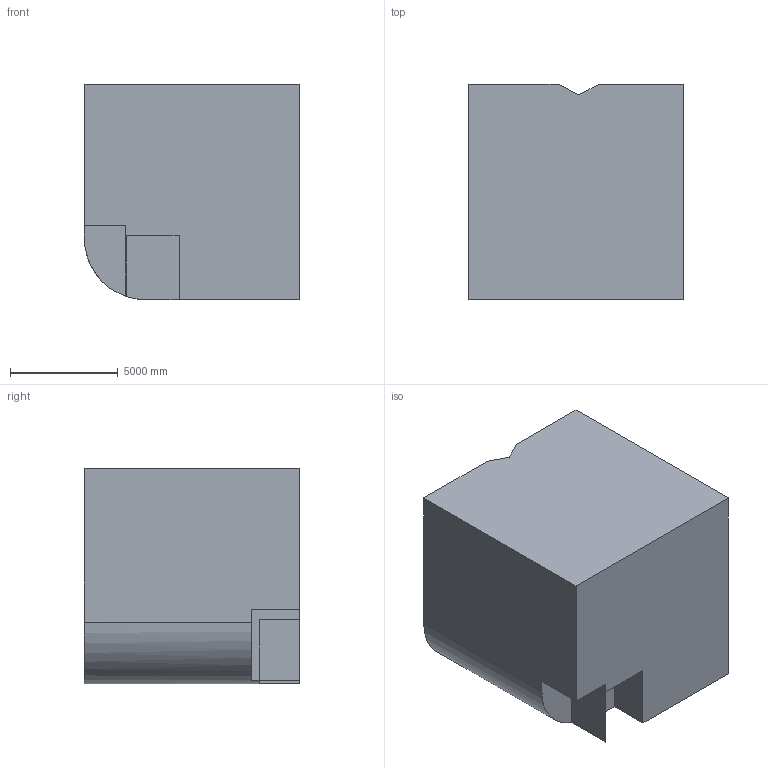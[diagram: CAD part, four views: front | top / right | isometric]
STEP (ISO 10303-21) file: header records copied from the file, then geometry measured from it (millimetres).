
FILE_DESCRIPTION (( 'STEP AP203' ), '1' );
FILE_NAME ('1454.STEP', '2022-08-18T14:34:22', ( 'user' ), ( '' ), 'SwSTEP 2.0', 'SolidWorks 2021', '' );
FILE_SCHEMA (( 'CONFIG_CONTROL_DESIGN' ));
Length unit declared in the file: centimetre
Products named in the file (1): 1454
Bounding box: 10000 x 10000 x 10000 mm (x, y, z)
Volume: 935017226299.3 mm3; surface area: 629747907.2 mm2
Topology: 1 solids, 1 shells, 20 faces, 51 edges, 34 vertices
Faces by surface type: plane 17, cylinder 3
Entity records: 680 total; most frequent: CARTESIAN_POINT 106, ORIENTED_EDGE 102, DIRECTION 101, EDGE_CURVE 51, VECTOR 43, LINE 43, VERTEX_POINT 34, AXIS2_PLACEMENT_3D 29
